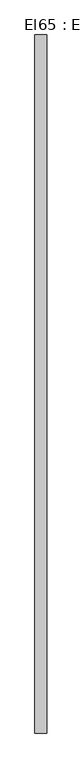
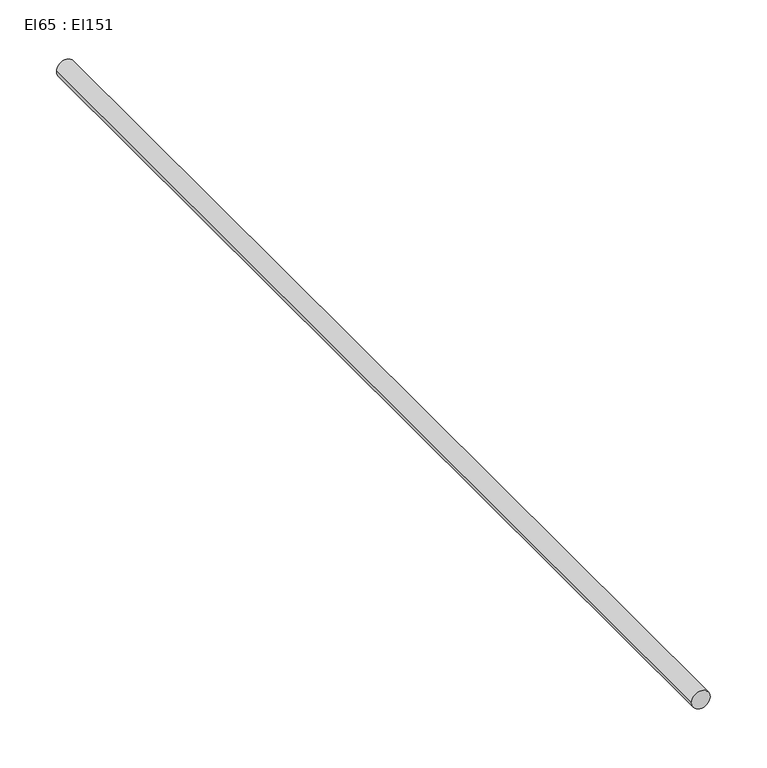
"""IFC4 building model written with IfcOpenShell, lengths in millimetres: cable carrier segment geometry, El65 : El151."""

import ifcopenshell
import ifcopenshell.guid

model = None  # the IFC model being written
_history = None  # IfcOwnerHistory: only IFC2X3 demands one
_inside = {}  # id of a spatial element -> (the spatial element, [elements in it])
_under = {}  # id of a project, library or spatial element -> (it, [spatial elements below it])
_declared = {}  # id of a project -> (the project, [libraries it declares])
_typed = {}  # id of a type object -> (the type object, [elements of that type])
_made_of = {}  # id of a material, layer set ... -> (it, [elements and type objects made of it])


def new_model(schema):
    """Start an empty IFC model of exactly this schema.

    Asked for "IFC4X3", IfcOpenShell would pick the latest addendum, in which some entities
    have other attributes; the version numbers below select the first issue.
    IFC2X3 requires an IfcOwnerHistory on every rooted entity: one is made here for all.
    """
    global model, _history
    if schema == "IFC4X3":
        model = ifcopenshell.file(schema_version=(4, 3, 0, 0))
    else:
        model = ifcopenshell.file(schema=schema)
    _inside.clear()
    _under.clear()
    _declared.clear()
    _typed.clear()
    _made_of.clear()
    _history = None
    if model.schema == "IFC2X3":
        org = make("IfcOrganization", Name="unknown")
        user = make(
            "IfcPersonAndOrganization",
            ThePerson=make("IfcPerson", FamilyName="unknown"),
            TheOrganization=org,
        )
        app = make(
            "IfcApplication",
            ApplicationDeveloper=org,
            Version="unknown",
            ApplicationFullName="unknown",
            ApplicationIdentifier="unknown",
        )
        _history = make(
            "IfcOwnerHistory",
            OwningUser=user,
            OwningApplication=app,
            ChangeAction="ADDED",
            CreationDate=0,
        )
    return model


def make(cls, **values):
    """One entity of the class cls with the attributes given. An attribute that is None is left unset."""
    return model.create_entity(
        cls, **{name: value for name, value in values.items() if value is not None}
    )


def rooted(cls, **values):
    """An entity with a GlobalId (a new one), such as an element, a storey or a relation."""
    return make(cls, GlobalId=ifcopenshell.guid.new(), OwnerHistory=_history, **values)


def si_unit(unit_type, name, prefix=None):
    """IfcSIUnit, for example si_unit("LENGTHUNIT", "METRE", prefix="MILLI")."""
    return make("IfcSIUnit", UnitType=unit_type, Prefix=prefix, Name=name)


def assignment(units):
    """IfcUnitAssignment: the units of a project."""
    return None if units is None else make("IfcUnitAssignment", Units=units)


def point(xyz):
    """IfcCartesianPoint."""
    return None if xyz is None else make("IfcCartesianPoint", Coordinates=xyz)


def direction(xyz):
    """IfcDirection."""
    return None if xyz is None else make("IfcDirection", DirectionRatios=xyz)


def frame(location, z_axis=None, x_axis=None):
    """IfcAxis2Placement3D, a coordinate frame: its origin and axes. An axis left out is left unset."""
    return make(
        "IfcAxis2Placement3D",
        Location=point(location),
        Axis=direction(z_axis),
        RefDirection=direction(x_axis),
    )


def frame_2d(location, x_axis=None):
    """IfcAxis2Placement2D, a coordinate frame in the plane: its origin and x axis."""
    return make(
        "IfcAxis2Placement2D", Location=point(location), RefDirection=direction(x_axis)
    )


def origin():
    """The frame at (0, 0, 0) with its axes left unset."""
    return frame((0.0, 0.0, 0.0))


def place(relative_to, where):
    """IfcLocalPlacement: puts the frame where relative to a parent placement (None: the world)."""
    return make(
        "IfcLocalPlacement", PlacementRelTo=relative_to, RelativePlacement=where
    )


def context(
    kind, dimensions, precision=None, world=None, true_north=None, identifier=None
):
    """IfcGeometricRepresentationContext, for example the 3D "Model" context."""
    return make(
        "IfcGeometricRepresentationContext",
        ContextIdentifier=identifier,
        ContextType=kind,
        CoordinateSpaceDimension=dimensions,
        Precision=precision,
        WorldCoordinateSystem=world,
        TrueNorth=true_north,
    )


def project(units=None, contexts=None):
    """IfcProject with its units and contexts."""
    return rooted(
        "IfcProject",
        Name="project",
        RepresentationContexts=contexts,
        UnitsInContext=assignment(units),
    )


def spatial(cls, under=None, at=None, **own):
    """A site, building, storey or space (cls), placed at a placement, below another one or the project."""
    s = rooted(cls, ObjectPlacement=at, **own)
    if under is not None:
        _under.setdefault(under.id(), (under, []))[1].append(s)
    return s


def circle_curve(where, radius):
    """IfcCircle in the frame where."""
    return make("IfcCircle", Position=where, Radius=radius)


def trimmed(basis, trim1, trim2, sense, master):
    """IfcTrimmedCurve: the piece of a basis curve between two trims."""
    return make(
        "IfcTrimmedCurve",
        BasisCurve=basis,
        Trim1=trim1,
        Trim2=trim2,
        SenseAgreement=sense,
        MasterRepresentation=master,
    )


def segment(curve, same_sense, transition):
    """IfcCompositeCurveSegment."""
    return make(
        "IfcCompositeCurveSegment",
        Transition=transition,
        SameSense=same_sense,
        ParentCurve=curve,
    )


def composite_curve(segments, self_intersect=None):
    """IfcCompositeCurve: segments joined end to end."""
    return make("IfcCompositeCurve", Segments=segments, SelfIntersect=self_intersect)


def outline(outer, holes=None, kind="AREA"):
    """IfcArbitraryClosedProfileDef: a profile drawn as a closed curve; with holes, ...WithVoids."""
    if holes is None:
        return make("IfcArbitraryClosedProfileDef", ProfileType=kind, OuterCurve=outer)
    return make(
        "IfcArbitraryProfileDefWithVoids",
        ProfileType=kind,
        OuterCurve=outer,
        InnerCurves=holes,
    )


def extrude(swept, where, along, depth):
    """IfcExtrudedAreaSolid: the profile swept, set in the frame where, extruded along a direction by depth."""
    return make(
        "IfcExtrudedAreaSolid",
        SweptArea=swept,
        Position=where,
        ExtrudedDirection=direction(along),
        Depth=depth,
    )


def shape(context_of_items, identifier, shape_type, items):
    """IfcShapeRepresentation: the items that make up one representation, for example the "Body"."""
    return make(
        "IfcShapeRepresentation",
        ContextOfItems=context_of_items,
        RepresentationIdentifier=identifier,
        RepresentationType=shape_type,
        Items=items,
    )


def source(mapping_origin, context_of_items, identifier, shape_type, items):
    """IfcRepresentationMap: a shape defined once, which mapped items show again and again."""
    return make(
        "IfcRepresentationMap",
        MappingOrigin=mapping_origin,
        MappedRepresentation=shape(context_of_items, identifier, shape_type, items),
    )


def transform(
    local_origin,
    x_axis=None,
    y_axis=None,
    z_axis=None,
    scale=None,
    scale2=None,
    scale3=None,
    uniform=True,
):
    """IfcCartesianTransformationOperator3D, or its non-uniform kind. x_axis, y_axis, z_axis: its Axis1, 2, 3."""
    if uniform:
        return make(
            "IfcCartesianTransformationOperator3D",
            Axis1=direction(x_axis),
            Axis2=direction(y_axis),
            LocalOrigin=point(local_origin),
            Scale=scale,
            Axis3=direction(z_axis),
        )
    return make(
        "IfcCartesianTransformationOperator3DnonUniform",
        Axis1=direction(x_axis),
        Axis2=direction(y_axis),
        LocalOrigin=point(local_origin),
        Scale=scale,
        Axis3=direction(z_axis),
        Scale2=scale2,
        Scale3=scale3,
    )


def mapped(mapping_source, mapping_target):
    """IfcMappedItem: shows the shape of a source again, moved by a transform."""
    return make(
        "IfcMappedItem", MappingSource=mapping_source, MappingTarget=mapping_target
    )


def made_of(thing, what):
    """Note that an element or type object is made of a material, layer set ...; save() writes the relation."""
    if what is not None:
        _made_of.setdefault(what.id(), (what, []))[1].append(thing)
    return thing


def element(
    cls,
    number,
    at=None,
    inside=None,
    cuts=None,
    type_object=None,
    material=None,
    context=None,
    identifier="Body",
    shape_type=None,
    held_by="IfcProductDefinitionShape",
    body=None,
    shapes=None,
    **own,
):
    """One element of the class cls, such as IfcWall. Its Tag is "e" and its number.

    at: its placement. inside: the storey or other place that contains it. cuts: it is an
    opening in that element (IfcRelVoidsElement). A single representation is given by context,
    identifier, shape_type and body (its items); several are given by shapes. held_by: the class
    of the entity that holds the representations. save() writes the other relations.
    """
    e = rooted(cls, Tag="e%d" % number, ObjectPlacement=at, **own)
    if body is not None:
        shapes = [shape(context, identifier, shape_type, body)]
    if shapes is not None:
        e.Representation = make(held_by, Representations=shapes)
    if inside is not None:
        _inside.setdefault(inside.id(), (inside, []))[1].append(e)
    if cuts is not None:
        rooted(
            "IfcRelVoidsElement", RelatingBuildingElement=cuts, RelatedOpeningElement=e
        )
    if type_object is not None:
        _typed.setdefault(type_object.id(), (type_object, []))[1].append(e)
    return made_of(e, material)


def aggregate(whole, parts):
    """IfcRelAggregates: a whole, such as a stair, and the parts it consists of."""
    return rooted("IfcRelAggregates", RelatingObject=whole, RelatedObjects=parts)


def save(model, path):
    """Write the relations noted so far, then the file.

    IfcRelAggregates (storeys below a building ...), IfcRelContainedInSpatialStructure (elements
    in a storey), IfcRelDefinesByType, IfcRelAssociatesMaterial and IfcRelDeclares: one each for
    every whole, place, type object, material and project.
    """
    for whole, parts in _under.values():
        aggregate(whole, parts)
    for where, things in _inside.values():
        rooted(
            "IfcRelContainedInSpatialStructure",
            RelatedElements=things,
            RelatingStructure=where,
        )
    for kind, things in _typed.values():
        rooted("IfcRelDefinesByType", RelatedObjects=things, RelatingType=kind)
    for what, things in _made_of.values():
        rooted("IfcRelAssociatesMaterial", RelatedObjects=things, RelatingMaterial=what)
    for by, libraries in _declared.values():
        rooted("IfcRelDeclares", RelatingContext=by, RelatedDefinitions=libraries)
    model.write(path)


def el65_el151_dc321eb8(model_context):
    return source(origin(), model_context, "Body", "SweptSolid", [
        extrude(outline(composite_curve([segment(trimmed(circle_curve(frame_2d((1800.0, 19844.4746511)), 9.5), [point((1800.0, 19834.9746511))], [point((1800.0, 19853.9746511))], False, "CARTESIAN"), True, "CONTINUOUS"), segment(trimmed(circle_curve(frame_2d((1800.0, 19844.4746511)), 9.5), [point((1800.0, 19853.9746511))], [point((1800.0, 19834.9746511))], False, "CARTESIAN"), True, "CONTINUOUS")], self_intersect=False)), frame((0.0, 1990.6351745, 0.0), z_axis=(0.0, 1.0, 0.0), x_axis=(0.0, 0.0, 1.0)), (0.0, 0.0, 1.0), 1124.15),
    ])


if __name__ == "__main__":
    model = new_model("IFC4")
    model_context = context("Model", 3, world=origin())
    ifc_project = project(units=[si_unit("LENGTHUNIT", "METRE", prefix="MILLI")], contexts=[model_context])
    site = spatial("IfcSite", under=ifc_project)
    building = spatial("IfcBuilding", under=site)
    placement = place(None, origin())
    el65_el151_shape = el65_el151_dc321eb8(model_context)
    element("IfcCableCarrierSegment", 1, ObjectType="El65 : El151", at=placement, inside=building, context=model_context, shape_type="MappedRepresentation", body=[
        mapped(el65_el151_shape, transform((0.0, 0.0, 0.0), x_axis=(1.0, 0.0, 0.0), y_axis=(0.0, 1.0, 0.0), z_axis=(0.0, 0.0, 1.0))),
    ])
    save(model, "model.ifc")
